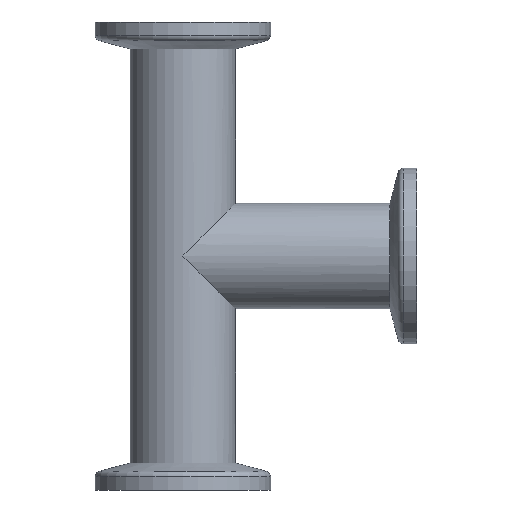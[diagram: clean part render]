
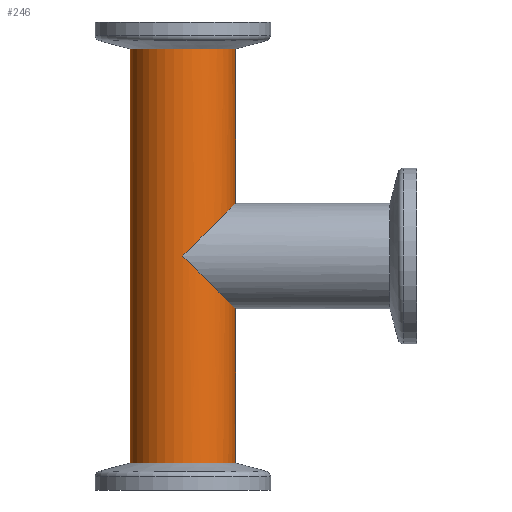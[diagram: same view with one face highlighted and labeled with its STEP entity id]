
A CAD part, front view. The second image highlights one B-rep face of the part: STEP entity #246.
In plain terms, the highlighted cylindrical face has radius 9 mm (diameter 18 mm), a partial arc.
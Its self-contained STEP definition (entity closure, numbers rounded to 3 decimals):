
#24 = CARTESIAN_POINT ( 'NONE',  ( 0., -9., -40. ) ) ;
#32 = CARTESIAN_POINT ( 'NONE',  ( 9., 0., -31. ) ) ;
#54 = CARTESIAN_POINT ( 'NONE',  ( 9., 0., -101.956 ) ) ;
#91 = CARTESIAN_POINT ( 'NONE',  ( -9., 0., -76.5 ) ) ;
#113 = CARTESIAN_POINT ( 'NONE',  ( -9., 0., -101.956 ) ) ;
#158 = VERTEX_POINT ( 'NONE', #837 ) ;
#246 = ADVANCED_FACE ( 'NONE', ( #360 ), #1133, .T. ) ;
#297 = ORIENTED_EDGE ( 'NONE', *, *, #1067, .F. ) ;
#310 = ORIENTED_EDGE ( 'NONE', *, *, #537, .T. ) ;
#311 = EDGE_CURVE ( 'NONE', #1405, #1246, #429, .T. ) ;
#318 = LINE ( 'NONE', #945, #1356 ) ;
#339 = ORIENTED_EDGE ( 'NONE', *, *, #1561, .T. ) ;
#360 = FACE_OUTER_BOUND ( 'NONE', #1789, .T. ) ;
#376 = DIRECTION ( 'NONE',  ( 0., 0., 1. ) ) ;
#429 =( BOUNDED_CURVE ( )  B_SPLINE_CURVE ( 3, ( #1043, #1757, #483, #1349 ),
 .UNSPECIFIED., .F., .F. ) 
 B_SPLINE_CURVE_WITH_KNOTS ( ( 4, 4 ),
 ( 3.142, 4.712 ),
 .UNSPECIFIED. ) 
 CURVE ( )  GEOMETRIC_REPRESENTATION_ITEM ( )  RATIONAL_B_SPLINE_CURVE ( ( 1., 0.805, 0.805, 1. ) ) 
 REPRESENTATION_ITEM ( '' )  );
#431 = VERTEX_POINT ( 'NONE', #904 ) ;
#433 = CARTESIAN_POINT ( 'NONE',  ( 5.272, -9., -34.728 ) ) ;
#460 = CARTESIAN_POINT ( 'NONE',  ( 0., 0., -101.956 ) ) ;
#483 = CARTESIAN_POINT ( 'NONE',  ( 5.272, -9., -45.272 ) ) ;
#496 = EDGE_CURVE ( 'NONE', #431, #1405, #318, .T. ) ;
#514 = CARTESIAN_POINT ( 'NONE',  ( 0., 0., -76.5 ) ) ;
#517 = DIRECTION ( 'NONE',  ( 1., 0., 0. ) ) ;
#537 = EDGE_CURVE ( 'NONE', #1128, #158, #1485, .T. ) ;
#539 = AXIS2_PLACEMENT_3D ( 'NONE', #514, #1778, #517 ) ;
#545 = CARTESIAN_POINT ( 'NONE',  ( 9., -5.272, -31. ) ) ;
#592 = ORIENTED_EDGE ( 'NONE', *, *, #860, .T. ) ;
#602 = DIRECTION ( 'NONE',  ( 1., 0., 0. ) ) ;
#658 = DIRECTION ( 'NONE',  ( 0., 0., -1. ) ) ;
#659 = CARTESIAN_POINT ( 'NONE',  ( 9., 0., -3.5 ) ) ;
#660 = LINE ( 'NONE', #54, #1505 ) ;
#719 = DIRECTION ( 'NONE',  ( 0., 0., 1. ) ) ;
#729 = ORIENTED_EDGE ( 'NONE', *, *, #496, .T. ) ;
#799 = LINE ( 'NONE', #113, #1548 ) ;
#835 = EDGE_CURVE ( 'NONE', #1246, #1234, #1361, .T. ) ;
#837 = CARTESIAN_POINT ( 'NONE',  ( -9., 0., -3.5 ) ) ;
#856 = CARTESIAN_POINT ( 'NONE',  ( 0., -9., -40. ) ) ;
#860 = EDGE_CURVE ( 'NONE', #1234, #1128, #660, .T. ) ;
#904 = CARTESIAN_POINT ( 'NONE',  ( 9., 0., -76.5 ) ) ;
#945 = CARTESIAN_POINT ( 'NONE',  ( 9., 0., -101.956 ) ) ;
#1041 = CARTESIAN_POINT ( 'NONE',  ( 9., 0., -49. ) ) ;
#1043 = CARTESIAN_POINT ( 'NONE',  ( 9., 0., -49. ) ) ;
#1067 = EDGE_CURVE ( 'NONE', #1645, #158, #799, .T. ) ;
#1074 = ORIENTED_EDGE ( 'NONE', *, *, #835, .T. ) ;
#1088 = CARTESIAN_POINT ( 'NONE',  ( 0., 0., -3.5 ) ) ;
#1128 = VERTEX_POINT ( 'NONE', #659 ) ;
#1133 = CYLINDRICAL_SURFACE ( 'NONE', #1281, 9. ) ;
#1151 = DIRECTION ( 'NONE',  ( 0., 0., 1. ) ) ;
#1165 = CARTESIAN_POINT ( 'NONE',  ( 9., 0., -31. ) ) ;
#1212 = CIRCLE ( 'NONE', #539, 9. ) ;
#1234 = VERTEX_POINT ( 'NONE', #1165 ) ;
#1238 = DIRECTION ( 'NONE',  ( 0., 0., 1. ) ) ;
#1246 = VERTEX_POINT ( 'NONE', #24 ) ;
#1281 = AXIS2_PLACEMENT_3D ( 'NONE', #460, #1151, #602 ) ;
#1329 = AXIS2_PLACEMENT_3D ( 'NONE', #1088, #658, #1653 ) ;
#1349 = CARTESIAN_POINT ( 'NONE',  ( 0., -9., -40. ) ) ;
#1356 = VECTOR ( 'NONE', #1238, 1000. ) ;
#1361 =( BOUNDED_CURVE ( )  B_SPLINE_CURVE ( 3, ( #856, #433, #545, #32 ),
 .UNSPECIFIED., .F., .F. ) 
 B_SPLINE_CURVE_WITH_KNOTS ( ( 4, 4 ),
 ( 4.712, 6.283 ),
 .UNSPECIFIED. ) 
 CURVE ( )  GEOMETRIC_REPRESENTATION_ITEM ( )  RATIONAL_B_SPLINE_CURVE ( ( 1., 0.805, 0.805, 1. ) ) 
 REPRESENTATION_ITEM ( '' )  );
#1405 = VERTEX_POINT ( 'NONE', #1041 ) ;
#1485 = CIRCLE ( 'NONE', #1329, 9. ) ;
#1505 = VECTOR ( 'NONE', #719, 1000. ) ;
#1548 = VECTOR ( 'NONE', #376, 1000. ) ;
#1561 = EDGE_CURVE ( 'NONE', #1645, #431, #1212, .T. ) ;
#1642 = ORIENTED_EDGE ( 'NONE', *, *, #311, .T. ) ;
#1645 = VERTEX_POINT ( 'NONE', #91 ) ;
#1653 = DIRECTION ( 'NONE',  ( -1., 0., 0. ) ) ;
#1757 = CARTESIAN_POINT ( 'NONE',  ( 9., -5.272, -49. ) ) ;
#1778 = DIRECTION ( 'NONE',  ( 0., 0., 1. ) ) ;
#1789 = EDGE_LOOP ( 'NONE', ( #297, #339, #729, #1642, #1074, #592, #310 ) ) ;
